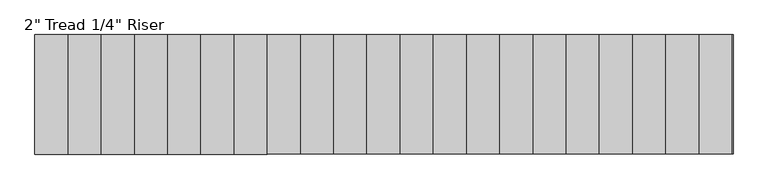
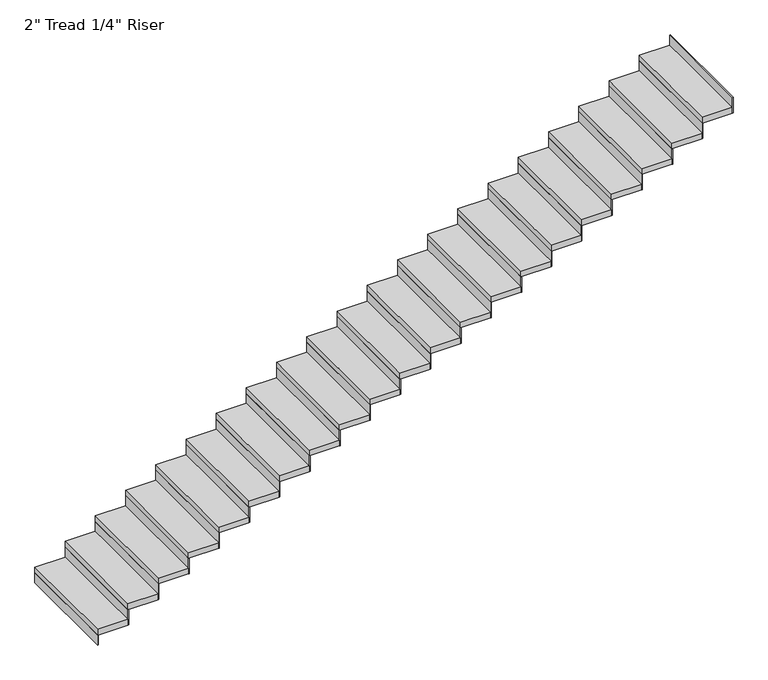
"""IFC4 building model written with IfcOpenShell, lengths in millimetres: stair flight geometry."""

from ifc_helpers import new_model, si_unit, frame, origin, origin_with_axes, place, context, project, spatial, polyline, outline, extrude, source, transform, mapped, element, save


def stair_flight_86cf1904(model_context):
    return source(origin(), model_context, "Body", "SweptSolid", [
        extrude(outline(polyline([(-14526.9713318, -1704.035031), (-14533.3213318, -1704.035031), (-14533.3213318, -789.635031), (-14526.9713318, -789.635031), (-14526.9713318, -1704.035031)])), origin_with_axes(), (0.0, 0.0, 1.0), 87.7454545),
        extrude(outline(polyline([(-14279.3213318, -789.635031), (-14279.3213318, -1704.035031), (-14533.3213318, -1704.035031), (-14533.3213318, -789.635031), (-14279.3213318, -789.635031)])), frame((0.0, 0.0, 87.7454545), z_axis=(0.0, 0.0, 1.0), x_axis=(1.0, 0.0, 0.0)), (0.0, 0.0, 1.0), 50.8),
        extrude(outline(polyline([(-14272.9713318, -1704.035031), (-14279.3213318, -1704.035031), (-14279.3213318, -789.635031), (-14272.9713318, -789.635031), (-14272.9713318, -1704.035031)])), frame((0.0, 0.0, 87.7454545), z_axis=(0.0, 0.0, 1.0), x_axis=(1.0, 0.0, 0.0)), (0.0, 0.0, 1.0), 138.5454545),
        extrude(outline(polyline([(-14025.3213318, -789.635031), (-14025.3213318, -1704.035031), (-14279.3213318, -1704.035031), (-14279.3213318, -789.635031), (-14025.3213318, -789.635031)])), frame((0.0, 0.0, 226.2909091), z_axis=(0.0, 0.0, 1.0), x_axis=(1.0, 0.0, 0.0)), (0.0, 0.0, 1.0), 50.8),
        extrude(outline(polyline([(-14018.9713318, -1704.035031), (-14025.3213318, -1704.035031), (-14025.3213318, -789.635031), (-14018.9713318, -789.635031), (-14018.9713318, -1704.035031)])), frame((0.0, 0.0, 226.2909091), z_axis=(0.0, 0.0, 1.0), x_axis=(1.0, 0.0, 0.0)), (0.0, 0.0, 1.0), 138.5454545),
        extrude(outline(polyline([(-13771.3213318, -789.635031), (-13771.3213318, -1704.035031), (-14025.3213318, -1704.035031), (-14025.3213318, -789.635031), (-13771.3213318, -789.635031)])), frame((0.0, 0.0, 364.8363636), z_axis=(0.0, 0.0, 1.0), x_axis=(1.0, 0.0, 0.0)), (0.0, 0.0, 1.0), 50.8),
        extrude(outline(polyline([(-13764.9713318, -1704.035031), (-13771.3213318, -1704.035031), (-13771.3213318, -789.635031), (-13764.9713318, -789.635031), (-13764.9713318, -1704.035031)])), frame((0.0, 0.0, 364.8363636), z_axis=(0.0, 0.0, 1.0), x_axis=(1.0, 0.0, 0.0)), (0.0, 0.0, 1.0), 138.5454545),
        extrude(outline(polyline([(-13517.3213318, -789.635031), (-13517.3213318, -1704.035031), (-13771.3213318, -1704.035031), (-13771.3213318, -789.635031), (-13517.3213318, -789.635031)])), frame((0.0, 0.0, 503.3818182), z_axis=(0.0, 0.0, 1.0), x_axis=(1.0, 0.0, 0.0)), (0.0, 0.0, 1.0), 50.8),
        extrude(outline(polyline([(-13510.9713318, -1704.035031), (-13517.3213318, -1704.035031), (-13517.3213318, -789.635031), (-13510.9713318, -789.635031), (-13510.9713318, -1704.035031)])), frame((0.0, 0.0, 503.3818182), z_axis=(0.0, 0.0, 1.0), x_axis=(1.0, 0.0, 0.0)), (0.0, 0.0, 1.0), 138.5454545),
        extrude(outline(polyline([(-13263.3213318, -789.635031), (-13263.3213318, -1704.035031), (-13517.3213318, -1704.035031), (-13517.3213318, -789.635031), (-13263.3213318, -789.635031)])), frame((0.0, 0.0, 641.9272727), z_axis=(0.0, 0.0, 1.0), x_axis=(1.0, 0.0, 0.0)), (0.0, 0.0, 1.0), 50.8),
        extrude(outline(polyline([(-13256.9713318, -1704.035031), (-13263.3213318, -1704.035031), (-13263.3213318, -789.635031), (-13256.9713318, -789.635031), (-13256.9713318, -1704.035031)])), frame((0.0, 0.0, 641.9272727), z_axis=(0.0, 0.0, 1.0), x_axis=(1.0, 0.0, 0.0)), (0.0, 0.0, 1.0), 138.5454545),
        extrude(outline(polyline([(-13009.3213318, -789.635031), (-13009.3213318, -1704.035031), (-13263.3213318, -1704.035031), (-13263.3213318, -789.635031), (-13009.3213318, -789.635031)])), frame((0.0, 0.0, 780.4727273), z_axis=(0.0, 0.0, 1.0), x_axis=(1.0, 0.0, 0.0)), (0.0, 0.0, 1.0), 50.8),
        extrude(outline(polyline([(-13002.9713318, -1704.035031), (-13009.3213318, -1704.035031), (-13009.3213318, -789.635031), (-13002.9713318, -789.635031), (-13002.9713318, -1704.035031)])), frame((0.0, 0.0, 780.4727273), z_axis=(0.0, 0.0, 1.0), x_axis=(1.0, 0.0, 0.0)), (0.0, 0.0, 1.0), 138.5454545),
        extrude(outline(polyline([(-12755.3213318, -789.635031), (-12755.3213318, -1704.035031), (-13009.3213318, -1704.035031), (-13009.3213318, -789.635031), (-12755.3213318, -789.635031)])), frame((0.0, 0.0, 919.0181818), z_axis=(0.0, 0.0, 1.0), x_axis=(1.0, 0.0, 0.0)), (0.0, 0.0, 1.0), 50.8),
        extrude(outline(polyline([(-12748.9713318, -1704.035031), (-12755.3213318, -1704.035031), (-12755.3213318, -789.635031), (-12748.9713318, -789.635031), (-12748.9713318, -1704.035031)])), frame((0.0, 0.0, 919.0181818), z_axis=(0.0, 0.0, 1.0), x_axis=(1.0, 0.0, 0.0)), (0.0, 0.0, 1.0), 138.5454545),
        extrude(outline(polyline([(-12501.3213318, -789.635031), (-12501.3213318, -1704.035031), (-12755.3213318, -1704.035031), (-12755.3213318, -789.635031), (-12501.3213318, -789.635031)])), frame((0.0, 0.0, 1057.5636364), z_axis=(0.0, 0.0, 1.0), x_axis=(1.0, 0.0, 0.0)), (0.0, 0.0, 1.0), 50.8),
        extrude(outline(polyline([(-12494.9713318, -1704.035031), (-12501.3213318, -1704.035031), (-12501.3213318, -789.635031), (-12494.9713318, -789.635031), (-12494.9713318, -1704.035031)])), frame((0.0, 0.0, 1057.5636364), z_axis=(0.0, 0.0, 1.0), x_axis=(1.0, 0.0, 0.0)), (0.0, 0.0, 1.0), 138.5454545),
        extrude(outline(polyline([(-12247.3213318, -789.635031), (-12247.3213318, -1704.035031), (-12501.3213318, -1704.035031), (-12501.3213318, -789.635031), (-12247.3213318, -789.635031)])), frame((0.0, 0.0, 1196.1090909), z_axis=(0.0, 0.0, 1.0), x_axis=(1.0, 0.0, 0.0)), (0.0, 0.0, 1.0), 50.8),
        extrude(outline(polyline([(-12240.9713318, -1704.035031), (-12247.3213318, -1704.035031), (-12247.3213318, -789.635031), (-12240.9713318, -789.635031), (-12240.9713318, -1704.035031)])), frame((0.0, 0.0, 1196.1090909), z_axis=(0.0, 0.0, 1.0), x_axis=(1.0, 0.0, 0.0)), (0.0, 0.0, 1.0), 138.5454545),
        extrude(outline(polyline([(-11993.3213318, -789.635031), (-11993.3213318, -1704.035031), (-12247.3213318, -1704.035031), (-12247.3213318, -789.635031), (-11993.3213318, -789.635031)])), frame((0.0, 0.0, 1334.6545455), z_axis=(0.0, 0.0, 1.0), x_axis=(1.0, 0.0, 0.0)), (0.0, 0.0, 1.0), 50.8),
        extrude(outline(polyline([(-11986.9713318, -1704.035031), (-11993.3213318, -1704.035031), (-11993.3213318, -789.635031), (-11986.9713318, -789.635031), (-11986.9713318, -1704.035031)])), frame((0.0, 0.0, 1334.6545455), z_axis=(0.0, 0.0, 1.0), x_axis=(1.0, 0.0, 0.0)), (0.0, 0.0, 1.0), 138.5454545),
        extrude(outline(polyline([(-11739.3213318, -789.635031), (-11739.3213318, -1704.035031), (-11993.3213318, -1704.035031), (-11993.3213318, -789.635031), (-11739.3213318, -789.635031)])), frame((0.0, 0.0, 1473.2), z_axis=(0.0, 0.0, 1.0), x_axis=(1.0, 0.0, 0.0)), (0.0, 0.0, 1.0), 50.8),
        extrude(outline(polyline([(-11732.9713318, -1704.035031), (-11739.3213318, -1704.035031), (-11739.3213318, -789.635031), (-11732.9713318, -789.635031), (-11732.9713318, -1704.035031)])), frame((0.0, 0.0, 1473.2), z_axis=(0.0, 0.0, 1.0), x_axis=(1.0, 0.0, 0.0)), (0.0, 0.0, 1.0), 138.5454545),
        extrude(outline(polyline([(-11485.3213318, -789.635031), (-11485.3213318, -1704.035031), (-11739.3213318, -1704.035031), (-11739.3213318, -789.635031), (-11485.3213318, -789.635031)])), frame((0.0, 0.0, 1611.7454545), z_axis=(0.0, 0.0, 1.0), x_axis=(1.0, 0.0, 0.0)), (0.0, 0.0, 1.0), 50.8),
        extrude(outline(polyline([(-11478.9713318, -1704.035031), (-11485.3213318, -1704.035031), (-11485.3213318, -789.635031), (-11478.9713318, -789.635031), (-11478.9713318, -1704.035031)])), frame((0.0, 0.0, 1611.7454545), z_axis=(0.0, 0.0, 1.0), x_axis=(1.0, 0.0, 0.0)), (0.0, 0.0, 1.0), 138.5454545),
        extrude(outline(polyline([(-11231.3213318, -789.635031), (-11231.3213318, -1704.035031), (-11485.3213318, -1704.035031), (-11485.3213318, -789.635031), (-11231.3213318, -789.635031)])), frame((0.0, 0.0, 1750.2909091), z_axis=(0.0, 0.0, 1.0), x_axis=(1.0, 0.0, 0.0)), (0.0, 0.0, 1.0), 50.8),
        extrude(outline(polyline([(-11224.9713318, -1704.035031), (-11231.3213318, -1704.035031), (-11231.3213318, -789.635031), (-11224.9713318, -789.635031), (-11224.9713318, -1704.035031)])), frame((0.0, 0.0, 1750.2909091), z_axis=(0.0, 0.0, 1.0), x_axis=(1.0, 0.0, 0.0)), (0.0, 0.0, 1.0), 138.5454545),
        extrude(outline(polyline([(-10977.3213318, -789.635031), (-10977.3213318, -1704.035031), (-11231.3213318, -1704.035031), (-11231.3213318, -789.635031), (-10977.3213318, -789.635031)])), frame((0.0, 0.0, 1888.8363636), z_axis=(0.0, 0.0, 1.0), x_axis=(1.0, 0.0, 0.0)), (0.0, 0.0, 1.0), 50.8),
        extrude(outline(polyline([(-10970.9713318, -1704.035031), (-10977.3213318, -1704.035031), (-10977.3213318, -789.635031), (-10970.9713318, -789.635031), (-10970.9713318, -1704.035031)])), frame((0.0, 0.0, 1888.8363636), z_axis=(0.0, 0.0, 1.0), x_axis=(1.0, 0.0, 0.0)), (0.0, 0.0, 1.0), 138.5454545),
        extrude(outline(polyline([(-10723.3213318, -789.635031), (-10723.3213318, -1704.035031), (-10977.3213318, -1704.035031), (-10977.3213318, -789.635031), (-10723.3213318, -789.635031)])), frame((0.0, 0.0, 2027.3818182), z_axis=(0.0, 0.0, 1.0), x_axis=(1.0, 0.0, 0.0)), (0.0, 0.0, 1.0), 50.8),
        extrude(outline(polyline([(-10716.9713318, -1704.035031), (-10723.3213318, -1704.035031), (-10723.3213318, -789.635031), (-10716.9713318, -789.635031), (-10716.9713318, -1704.035031)])), frame((0.0, 0.0, 2027.3818182), z_axis=(0.0, 0.0, 1.0), x_axis=(1.0, 0.0, 0.0)), (0.0, 0.0, 1.0), 138.5454545),
        extrude(outline(polyline([(-10469.3213318, -789.635031), (-10469.3213318, -1704.035031), (-10723.3213318, -1704.035031), (-10723.3213318, -789.635031), (-10469.3213318, -789.635031)])), frame((0.0, 0.0, 2165.9272727), z_axis=(0.0, 0.0, 1.0), x_axis=(1.0, 0.0, 0.0)), (0.0, 0.0, 1.0), 50.8),
        extrude(outline(polyline([(-10462.9713318, -1704.035031), (-10469.3213318, -1704.035031), (-10469.3213318, -789.635031), (-10462.9713318, -789.635031), (-10462.9713318, -1704.035031)])), frame((0.0, 0.0, 2165.9272727), z_axis=(0.0, 0.0, 1.0), x_axis=(1.0, 0.0, 0.0)), (0.0, 0.0, 1.0), 138.5454545),
        extrude(outline(polyline([(-10215.3213318, -789.635031), (-10215.3213318, -1704.035031), (-10469.3213318, -1704.035031), (-10469.3213318, -789.635031), (-10215.3213318, -789.635031)])), frame((0.0, 0.0, 2304.4727273), z_axis=(0.0, 0.0, 1.0), x_axis=(1.0, 0.0, 0.0)), (0.0, 0.0, 1.0), 50.8),
        extrude(outline(polyline([(-10208.9713318, -1704.035031), (-10215.3213318, -1704.035031), (-10215.3213318, -789.635031), (-10208.9713318, -789.635031), (-10208.9713318, -1704.035031)])), frame((0.0, 0.0, 2304.4727273), z_axis=(0.0, 0.0, 1.0), x_axis=(1.0, 0.0, 0.0)), (0.0, 0.0, 1.0), 138.5454545),
        extrude(outline(polyline([(-9961.3213318, -789.635031), (-9961.3213318, -1704.035031), (-10215.3213318, -1704.035031), (-10215.3213318, -789.635031), (-9961.3213318, -789.635031)])), frame((0.0, 0.0, 2443.0181818), z_axis=(0.0, 0.0, 1.0), x_axis=(1.0, 0.0, 0.0)), (0.0, 0.0, 1.0), 50.8),
        extrude(outline(polyline([(-9954.9713318, -1704.035031), (-9961.3213318, -1704.035031), (-9961.3213318, -789.635031), (-9954.9713318, -789.635031), (-9954.9713318, -1704.035031)])), frame((0.0, 0.0, 2443.0181818), z_axis=(0.0, 0.0, 1.0), x_axis=(1.0, 0.0, 0.0)), (0.0, 0.0, 1.0), 138.5454545),
        extrude(outline(polyline([(-9707.3213318, -789.635031), (-9707.3213318, -1704.035031), (-9961.3213318, -1704.035031), (-9961.3213318, -789.635031), (-9707.3213318, -789.635031)])), frame((0.0, 0.0, 2581.5636364), z_axis=(0.0, 0.0, 1.0), x_axis=(1.0, 0.0, 0.0)), (0.0, 0.0, 1.0), 50.8),
        extrude(outline(polyline([(-9700.9713318, -1704.035031), (-9707.3213318, -1704.035031), (-9707.3213318, -789.635031), (-9700.9713318, -789.635031), (-9700.9713318, -1704.035031)])), frame((0.0, 0.0, 2581.5636364), z_axis=(0.0, 0.0, 1.0), x_axis=(1.0, 0.0, 0.0)), (0.0, 0.0, 1.0), 138.5454545),
        extrude(outline(polyline([(-9453.3213318, -789.635031), (-9453.3213318, -1704.035031), (-9707.3213318, -1704.035031), (-9707.3213318, -789.635031), (-9453.3213318, -789.635031)])), frame((0.0, 0.0, 2720.1090909), z_axis=(0.0, 0.0, 1.0), x_axis=(1.0, 0.0, 0.0)), (0.0, 0.0, 1.0), 50.8),
        extrude(outline(polyline([(-9446.9713318, -1704.035031), (-9453.3213318, -1704.035031), (-9453.3213318, -789.635031), (-9446.9713318, -789.635031), (-9446.9713318, -1704.035031)])), frame((0.0, 0.0, 2720.1090909), z_axis=(0.0, 0.0, 1.0), x_axis=(1.0, 0.0, 0.0)), (0.0, 0.0, 1.0), 138.5454545),
        extrude(outline(polyline([(-9192.9713318, -1704.035031), (-9199.3213318, -1704.035031), (-9199.3213318, -789.635031), (-9192.9713318, -789.635031), (-9192.9713318, -1704.035031)])), frame((0.0, 0.0, 2858.6545455), z_axis=(0.0, 0.0, 1.0), x_axis=(1.0, 0.0, 0.0)), (0.0, 0.0, 1.0), 138.5454545),
        extrude(outline(polyline([(-9199.3213318, -789.635031), (-9199.3213318, -1704.035031), (-9453.3213318, -1704.035031), (-9453.3213318, -789.635031), (-9199.3213318, -789.635031)])), frame((0.0, 0.0, 2858.6545455), z_axis=(0.0, 0.0, 1.0), x_axis=(1.0, 0.0, 0.0)), (0.0, 0.0, 1.0), 50.8),
    ])


if __name__ == "__main__":
    model = new_model("IFC4")
    model_context = context("Model", 3, world=origin())
    ifc_project = project(units=[si_unit("LENGTHUNIT", "METRE", prefix="MILLI")], contexts=[model_context])
    site = spatial("IfcSite", under=ifc_project)
    building = spatial("IfcBuilding", under=site)
    placement = place(None, origin())
    stair_flight_shape = stair_flight_86cf1904(model_context)
    element("IfcStairFlight", 1, ObjectType="2\" Tread 1/4\" Riser", at=placement, inside=building, context=model_context, shape_type="MappedRepresentation", body=[
        mapped(stair_flight_shape, transform((0.0, 0.0, 0.0), x_axis=(1.0, 0.0, 0.0), y_axis=(0.0, 1.0, 0.0), z_axis=(0.0, 0.0, 1.0))),
    ])
    save(model, "model.ifc")
